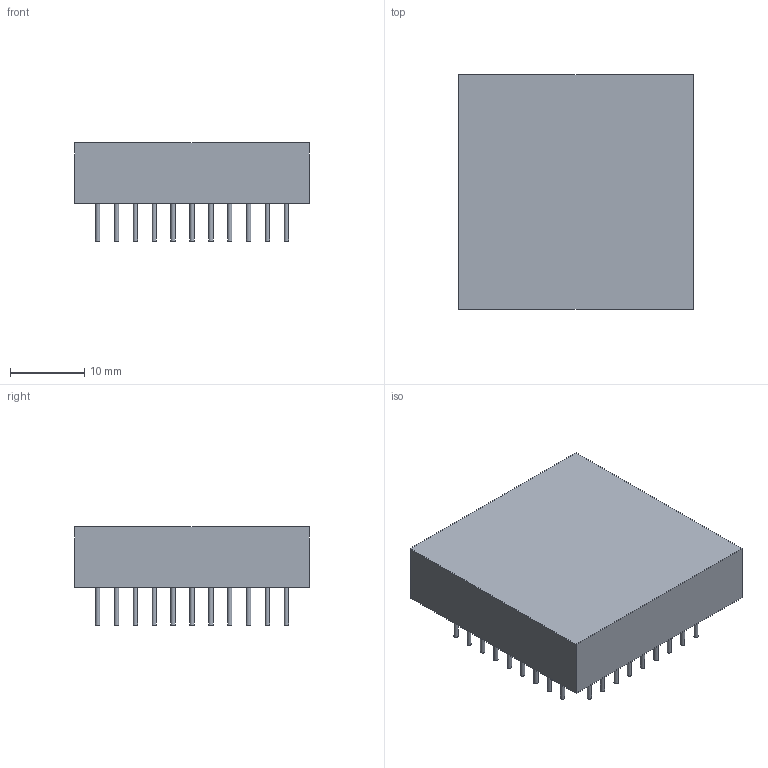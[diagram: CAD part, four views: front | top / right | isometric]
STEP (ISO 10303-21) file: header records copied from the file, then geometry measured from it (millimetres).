
FILE_DESCRIPTION(('FreeCAD Model'),'2;1');
FILE_NAME('/var/www/3D/0T/243498.1.5.stp','2021-01-25T11:42:20',( 'Author'),(''),'Open CASCADE STEP processor 6.9','FreeCAD','Unknown' );
FILE_SCHEMA(('AUTOMOTIVE_DESIGN { 1 0 10303 214 1 1 1 1 }'));
Length unit declared in the file: millimetre
Products named in the file (3): ASSEMBLY; Body; Leads
Assembly tree (2 placements, depth 2):
  ASSEMBLY
    Body
    Leads
Bounding box: 31.6 x 31.6 x 13.2 mm (x, y, z)
Volume: 8186.4 mm3; surface area: 3713.1 mm2
Topology: 69 solids, 69 shells, 210 faces, 216 edges, 144 vertices
Faces by surface type: plane 142, cylinder 68
Full cylindrical faces by diameter (mm): 0.6 x68
Entity records: 7239 total; most frequent: DIRECTION 1210, CARTESIAN_POINT 1005, ORIENTED_EDGE 432, PCURVE 432, DEFINITIONAL_REPRESENTATION 432, LINE 376, VECTOR 376, AXIS2_PLACEMENT_3D 349
